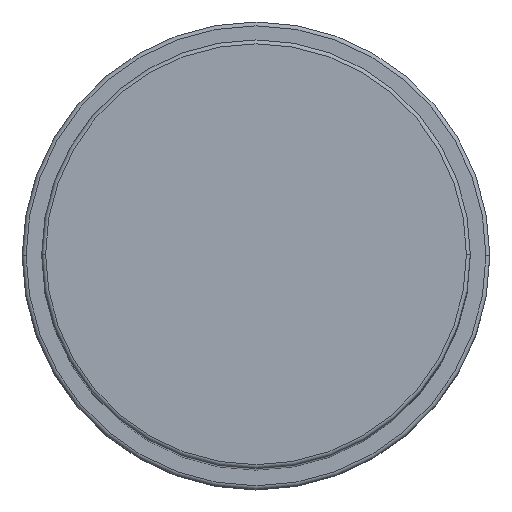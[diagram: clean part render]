
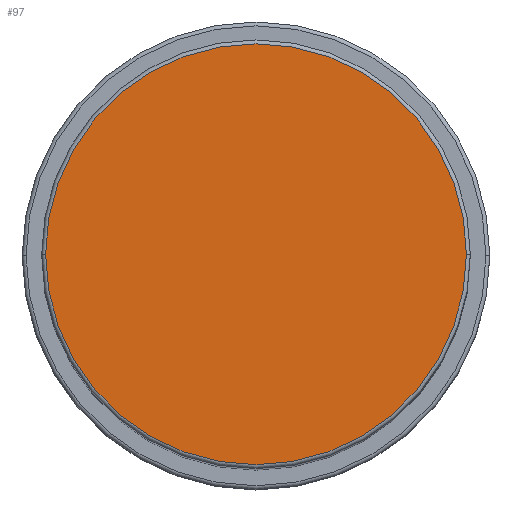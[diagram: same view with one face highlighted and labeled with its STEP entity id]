
A CAD part, top view. The second image highlights one B-rep face of the part: STEP entity #97.
In plain terms, the highlighted planar face has unit normal (0, 0, 1).
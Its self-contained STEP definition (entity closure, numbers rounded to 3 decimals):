
#24 = DIRECTION ( 'NONE',  ( 0., 0., 1. ) ) ;
#55 = CARTESIAN_POINT ( 'NONE',  ( -27., 0., 128. ) ) ;
#94 = DIRECTION ( 'NONE',  ( 1., 0., 0. ) ) ;
#97 = ADVANCED_FACE ( 'NONE', ( #991 ), #237, .T. ) ;
#220 = CARTESIAN_POINT ( 'NONE',  ( 0., 0., 128. ) ) ;
#237 = PLANE ( 'NONE',  #509 ) ;
#509 = AXIS2_PLACEMENT_3D ( 'NONE', #220, #705, #94 ) ;
#515 = EDGE_LOOP ( 'NONE', ( #1786, #664 ) ) ;
#531 = CARTESIAN_POINT ( 'NONE',  ( 0., 0., 128. ) ) ;
#584 = AXIS2_PLACEMENT_3D ( 'NONE', #1271, #24, #1115 ) ;
#606 = CARTESIAN_POINT ( 'NONE',  ( 27., 0., 128. ) ) ;
#664 = ORIENTED_EDGE ( 'NONE', *, *, #730, .T. ) ;
#691 = DIRECTION ( 'NONE',  ( 0., 0., 1. ) ) ;
#693 = CIRCLE ( 'NONE', #1491, 27. ) ;
#705 = DIRECTION ( 'NONE',  ( 0., 0., 1. ) ) ;
#730 = EDGE_CURVE ( 'NONE', #1294, #883, #693, .T. ) ;
#883 = VERTEX_POINT ( 'NONE', #606 ) ;
#991 = FACE_OUTER_BOUND ( 'NONE', #515, .T. ) ;
#996 = DIRECTION ( 'NONE',  ( 1., 0., 0. ) ) ;
#1115 = DIRECTION ( 'NONE',  ( 1., 0., 0. ) ) ;
#1177 = EDGE_CURVE ( 'NONE', #883, #1294, #1410, .T. ) ;
#1271 = CARTESIAN_POINT ( 'NONE',  ( 0., 0., 128. ) ) ;
#1294 = VERTEX_POINT ( 'NONE', #55 ) ;
#1410 = CIRCLE ( 'NONE', #584, 27. ) ;
#1491 = AXIS2_PLACEMENT_3D ( 'NONE', #531, #691, #996 ) ;
#1786 = ORIENTED_EDGE ( 'NONE', *, *, #1177, .T. ) ;
